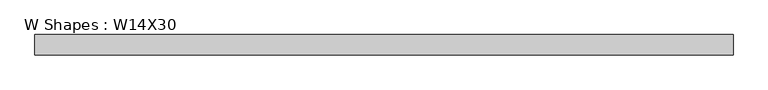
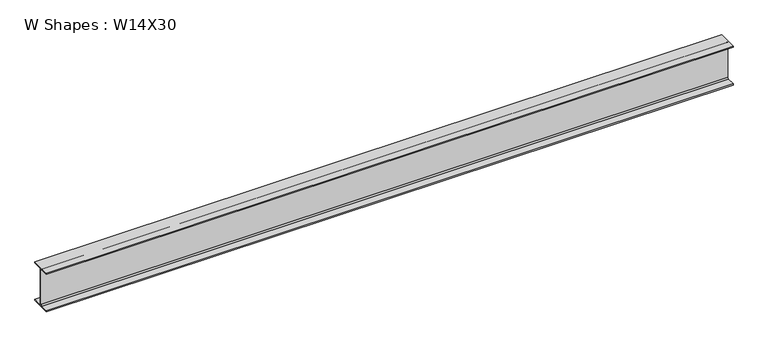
"""IFC4 building model written with IfcOpenShell, lengths in millimetres: beam geometry, W Shapes : W14X30."""

from ifc_helpers import new_model, si_unit, point, frame, frame_2d, origin, place, context, project, spatial, polyline, circle_curve, trimmed, segment, composite_curve, outline, extrude, source, transform, mapped, element, save


def w_shapes_w14x30_2e673df6(model_context):
    return source(origin(), model_context, "Body", "SweptSolid", [
        extrude(outline(composite_curve([segment(polyline([(85.471, -165.481), (85.471, -175.26), (-85.471, -175.26), (-85.471, -165.481), (-13.589, -165.481)]), True, "CONTINUOUS"), segment(trimmed(circle_curve(frame_2d((-13.589, -155.321)), 10.16), [point((-13.589, -165.481))], [point((-3.429, -155.321))], True, "CARTESIAN"), True, "CONTINUOUS"), segment(polyline([(-3.429, -155.321), (-3.429, 155.321)]), True, "CONTINUOUS"), segment(trimmed(circle_curve(frame_2d((-13.589, 155.321)), 10.16), [point((-3.429, 155.321))], [point((-13.589, 165.481))], True, "CARTESIAN"), True, "CONTINUOUS"), segment(polyline([(-13.589, 165.481), (-85.471, 165.481), (-85.471, 175.26), (85.471, 175.26), (85.471, 165.481), (13.589, 165.481)]), True, "CONTINUOUS"), segment(trimmed(circle_curve(frame_2d((13.589, 155.321)), 10.16), [point((13.589, 165.481))], [point((3.429, 155.321))], True, "CARTESIAN"), True, "CONTINUOUS"), segment(polyline([(3.429, 155.321), (3.429, -155.321)]), True, "CONTINUOUS"), segment(trimmed(circle_curve(frame_2d((13.589, -155.321)), 10.16), [point((3.429, -155.321))], [point((13.589, -165.481))], True, "CARTESIAN"), True, "CONTINUOUS"), segment(polyline([(13.589, -165.481), (85.471, -165.481)]), True, "CONTINUOUS")], self_intersect=False)), frame((-2950.5602163, 0.0, 0.0), z_axis=(1.0, 0.0, 0.0), x_axis=(0.0, 1.0, 0.0)), (0.0, 0.0, 1.0), 5888.3992197),
    ])


if __name__ == "__main__":
    model = new_model("IFC4")
    model_context = context("Model", 3, world=origin())
    ifc_project = project(units=[si_unit("LENGTHUNIT", "METRE", prefix="MILLI")], contexts=[model_context])
    site = spatial("IfcSite", under=ifc_project)
    building = spatial("IfcBuilding", under=site)
    placement = place(None, origin())
    w_shapes_w14x30_shape = w_shapes_w14x30_2e673df6(model_context)
    element("IfcBeam", 1, ObjectType="W Shapes : W14X30", at=placement, inside=building, context=model_context, shape_type="MappedRepresentation", body=[
        mapped(w_shapes_w14x30_shape, transform((0.0, 0.0, 0.0), x_axis=(1.0, 0.0, 0.0), y_axis=(0.0, 1.0, 0.0), z_axis=(0.0, 0.0, 1.0))),
    ])
    save(model, "model.ifc")
